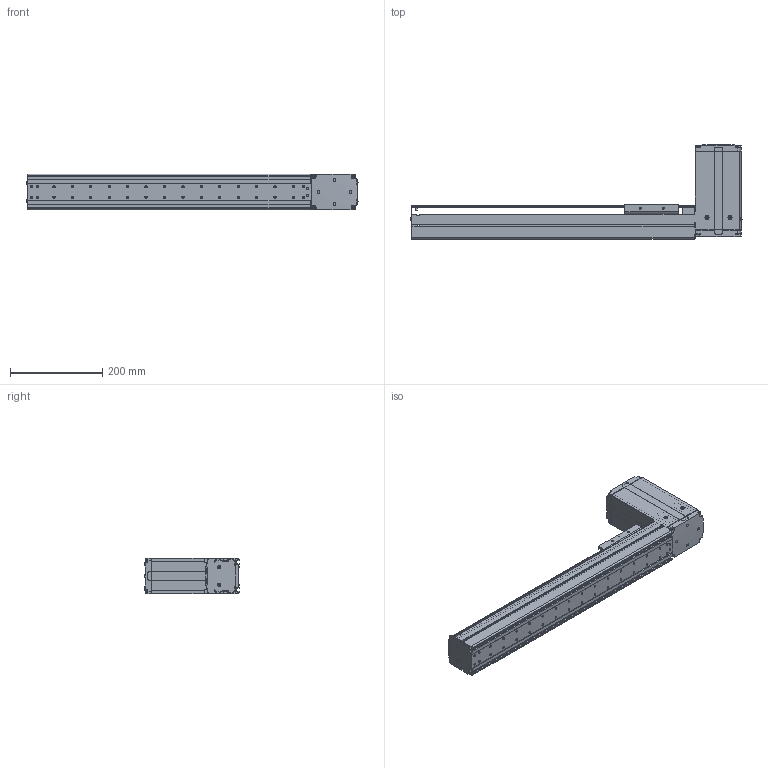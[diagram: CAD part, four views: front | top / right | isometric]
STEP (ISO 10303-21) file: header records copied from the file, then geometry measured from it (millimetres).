
FILE_DESCRIPTION((''),'2;1');
FILE_NAME('BE10_-BT-M_N-40_IGS_PRT','2017-06-18T',(' '),(''),'PRO/ENGINEER BY PARAMETRIC TECHNOLOGY CORPORATION, 2015030','PRO/ENGINEER BY PARAMETRIC TECHNOLOGY CORPORATION, 2015030','');
FILE_SCHEMA(('CONFIG_CONTROL_DESIGN'));
Products named in the file (1): BE10_-BT-M_N-40_IGS_PRT
Bounding box: 720.8 x 204.72 x 78 mm (x, y, z)
Volume: 1036001.2 mm3; surface area: 728836.2 mm2
Topology: 3 solids, 122 shells, 2003 faces, 5461 edges, 3581 vertices
Faces by surface type: plane 974, cylinder 858, cone 111, sphere 30, torus 27, bspline 3
Entity records: 64878 total; most frequent: CARTESIAN_POINT 13190, DIRECTION 10957, ORIENTED_EDGE 10398, EDGE_CURVE 5399, AXIS2_PLACEMENT_3D 3892, VERTEX_POINT 3581, VECTOR 3173, LINE 3173
